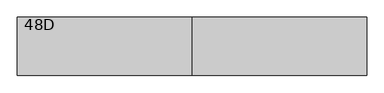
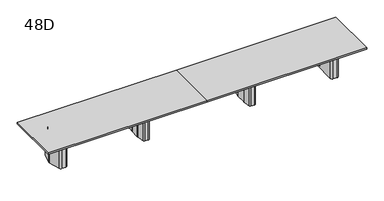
"""IFC4 building model written with IfcOpenShell, lengths in millimetres: furniture geometry, Coalesse_AM_Table_Conference_ETable2_Rectangular_24ft_FourBase : 48D."""

from ifc_helpers import new_model, si_unit, frame, origin, place, context, project, spatial, polyline, circle_curve, outline, extrude, source, transform, mapped, element, save
from ifc_brep_helpers import plane_surface, cylinder_surface, revolved_surface, advanced_brep


def furniture_48d_2db85514(model_context):
    return source(origin(), model_context, "Body", "SolidModel", [
        advanced_brep(
        [(1254.91875, 206.375, 3.175), (1229.51875, 231.775, 3.175), (1208.88125, 231.775, 3.175), (1183.48125, 206.375, 3.175), (1183.48125, -206.375, 3.175), (1208.88125, -231.775, 3.175), (1229.51875, -231.775, 3.175), (1254.91875, -206.375, 3.175), (1158.08125, 206.375, 0.0), (1208.88125, 257.175, 0.0), (1229.51875, 257.175, 0.0), (1280.31875, 206.375, 0.0), (1280.31875, -206.375, 0.0), (1229.51875, -257.175, 0.0), (1208.88125, -257.175, 0.0), (1158.08125, -206.375, 0.0), (1158.08125, -206.375, 3.175), (1158.08125, 206.375, 3.175), (1208.88125, -257.175, 3.175), (1229.51875, -257.175, 3.175), (1280.31875, -206.375, 3.175), (1280.31875, 206.375, 3.175), (1229.51875, 257.175, 3.175), (1208.88125, 257.175, 3.175), (1126.5784026, 106.2976848, 698.5), (1126.33125, 102.7629613, 698.5), (1126.33125, -102.7629613, 698.5), (1126.5784026, -106.2976848, 698.5), (1151.4011625, -282.9347235, 698.5), (1176.5540098, -304.8, 698.5), (1261.8459902, -304.8, 698.5), (1286.9988375, -282.9347235, 698.5), (1311.8215974, -106.2976848, 698.5), (1312.06875, -102.7629613, 698.5), (1312.06875, 102.7629613, 698.5), (1311.8215974, 106.2976848, 698.5), (1286.9988375, 282.9347235, 698.5), (1261.8459902, 304.8, 698.5), (1176.5540098, 304.8, 698.5), (1151.4011625, 282.9347235, 698.5), (1229.51875, 231.775, 698.5), (1254.91875, 206.375, 698.5), (1254.91875, -206.375, 698.5), (1229.51875, -231.775, 698.5), (1208.88125, -231.775, 698.5), (1183.48125, -206.375, 698.5), (1183.48125, 206.375, 698.5), (1208.88125, 231.775, 698.5), (1126.5784026, 106.2976848, 3.175), (1151.4011625, 282.9347235, 3.175), (1176.5540098, 304.8, 3.175), (1261.8459902, 304.8, 3.175), (1286.9988375, 282.9347235, 3.175), (1311.8215974, 106.2976848, 3.175), (1312.06875, 102.7629613, 3.175), (1312.06875, -102.7629613, 3.175), (1311.8215974, -106.2976848, 3.175), (1286.9988375, -282.9347235, 3.175), (1261.8459902, -304.8, 3.175), (1176.5540098, -304.8, 3.175), (1151.4011625, -282.9347235, 3.175), (1126.5784026, -106.2976848, 3.175), (1126.33125, -102.7629613, 3.175), (1126.33125, 102.7629613, 3.175)],
        [
            (0, 1, circle_curve(frame((1229.51875, 206.375, 3.175), z_axis=(0.0, 0.0, 1.0), x_axis=(1.0, 0.0, 0.0)), 25.4)),
            (1, 2),
            (2, 3, circle_curve(frame((1208.88125, 206.375, 3.175), z_axis=(0.0, 0.0, 1.0), x_axis=(1.0, 0.0, 0.0)), 25.4)),
            (3, 4),
            (4, 5, circle_curve(frame((1208.88125, -206.375, 3.175), z_axis=(0.0, 0.0, 1.0), x_axis=(1.0, 0.0, 0.0)), 25.4)),
            (5, 6),
            (6, 7, circle_curve(frame((1229.51875, -206.375, 3.175), z_axis=(0.0, 0.0, 1.0), x_axis=(1.0, 0.0, 0.0)), 25.4)),
            (7, 0),
            (8, 9, circle_curve(frame((1208.88125, 206.375, 0.0), z_axis=(0.0, 0.0, -1.0), x_axis=(1.0, 0.0, 0.0)), 50.8)),
            (9, 10),
            (10, 11, circle_curve(frame((1229.51875, 206.375, 0.0), z_axis=(0.0, 0.0, -1.0), x_axis=(1.0, 0.0, 0.0)), 50.8)),
            (11, 12),
            (12, 13, circle_curve(frame((1229.51875, -206.375, 0.0), z_axis=(0.0, 0.0, -1.0), x_axis=(1.0, 0.0, 0.0)), 50.8)),
            (13, 14),
            (14, 15, circle_curve(frame((1208.88125, -206.375, 0.0), z_axis=(0.0, 0.0, -1.0), x_axis=(1.0, 0.0, 0.0)), 50.8)),
            (15, 8),
            (15, 16),
            (16, 17),
            (17, 8),
            (14, 18),
            (18, 16, circle_curve(frame((1208.88125, -206.375, 3.175), z_axis=(0.0, 0.0, -1.0), x_axis=(1.0, 0.0, 0.0)), 50.8)),
            (13, 19),
            (19, 18),
            (12, 20),
            (20, 19, circle_curve(frame((1229.51875, -206.375, 3.175), z_axis=(0.0, 0.0, -1.0), x_axis=(1.0, 0.0, 0.0)), 50.8)),
            (11, 21),
            (21, 20),
            (10, 22),
            (22, 21, circle_curve(frame((1229.51875, 206.375, 3.175), z_axis=(0.0, 0.0, -1.0), x_axis=(1.0, 0.0, 0.0)), 50.8)),
            (9, 23),
            (23, 22),
            (17, 23, circle_curve(frame((1208.88125, 206.375, 3.175), z_axis=(0.0, 0.0, -1.0), x_axis=(1.0, 0.0, 0.0)), 50.8)),
            (24, 25, circle_curve(frame((1151.73125, 102.7629613, 698.5), z_axis=(0.0, 0.0, 1.0), x_axis=(1.0, 0.0, 0.0)), 25.4)),
            (25, 26),
            (26, 27, circle_curve(frame((1151.73125, -102.7629613, 698.5), z_axis=(0.0, 0.0, 1.0), x_axis=(1.0, 0.0, 0.0)), 25.4)),
            (27, 28),
            (28, 29, circle_curve(frame((1176.5540098, -279.4, 698.5), z_axis=(0.0, 0.0, 1.0), x_axis=(1.0, 0.0, 0.0)), 25.4)),
            (29, 30),
            (30, 31, circle_curve(frame((1261.8459902, -279.4, 698.5), z_axis=(0.0, 0.0, 1.0), x_axis=(1.0, 0.0, 0.0)), 25.4)),
            (31, 32),
            (32, 33, circle_curve(frame((1286.66875, -102.7629613, 698.5), z_axis=(0.0, 0.0, 1.0), x_axis=(1.0, 0.0, 0.0)), 25.4)),
            (33, 34),
            (34, 35, circle_curve(frame((1286.66875, 102.7629613, 698.5), z_axis=(0.0, 0.0, 1.0), x_axis=(1.0, 0.0, 0.0)), 25.4)),
            (35, 36),
            (36, 37, circle_curve(frame((1261.8459902, 279.4, 698.5), z_axis=(0.0, 0.0, 1.0), x_axis=(1.0, 0.0, 0.0)), 25.4)),
            (37, 38),
            (38, 39, circle_curve(frame((1176.5540098, 279.4, 698.5), z_axis=(0.0, 0.0, 1.0), x_axis=(1.0, 0.0, 0.0)), 25.4)),
            (39, 24),
            (40, 41, circle_curve(frame((1229.51875, 206.375, 698.5), z_axis=(0.0, 0.0, -1.0), x_axis=(1.0, 0.0, 0.0)), 25.4)),
            (41, 42),
            (42, 43, circle_curve(frame((1229.51875, -206.375, 698.5), z_axis=(0.0, 0.0, -1.0), x_axis=(1.0, 0.0, 0.0)), 25.4)),
            (43, 44),
            (44, 45, circle_curve(frame((1208.88125, -206.375, 698.5), z_axis=(0.0, 0.0, -1.0), x_axis=(1.0, 0.0, 0.0)), 25.4)),
            (45, 46),
            (46, 47, circle_curve(frame((1208.88125, 206.375, 698.5), z_axis=(0.0, 0.0, -1.0), x_axis=(1.0, 0.0, 0.0)), 25.4)),
            (47, 40),
            (48, 49),
            (49, 50, circle_curve(frame((1176.5540098, 279.4, 3.175), z_axis=(0.0, 0.0, -1.0), x_axis=(1.0, 0.0, 0.0)), 25.4)),
            (50, 51),
            (51, 52, circle_curve(frame((1261.8459902, 279.4, 3.175), z_axis=(0.0, 0.0, -1.0), x_axis=(1.0, 0.0, 0.0)), 25.4)),
            (52, 53),
            (53, 54, circle_curve(frame((1286.66875, 102.7629613, 3.175), z_axis=(0.0, 0.0, -1.0), x_axis=(1.0, 0.0, 0.0)), 25.4)),
            (54, 55),
            (55, 56, circle_curve(frame((1286.66875, -102.7629613, 3.175), z_axis=(0.0, 0.0, -1.0), x_axis=(1.0, 0.0, 0.0)), 25.4)),
            (56, 57),
            (57, 58, circle_curve(frame((1261.8459902, -279.4, 3.175), z_axis=(0.0, 0.0, -1.0), x_axis=(1.0, 0.0, 0.0)), 25.4)),
            (58, 59),
            (59, 60, circle_curve(frame((1176.5540098, -279.4, 3.175), z_axis=(0.0, 0.0, -1.0), x_axis=(1.0, 0.0, 0.0)), 25.4)),
            (60, 61),
            (61, 62, circle_curve(frame((1151.73125, -102.7629613, 3.175), z_axis=(0.0, 0.0, -1.0), x_axis=(1.0, 0.0, 0.0)), 25.4)),
            (62, 63),
            (63, 48, circle_curve(frame((1151.73125, 102.7629613, 3.175), z_axis=(0.0, 0.0, -1.0), x_axis=(1.0, 0.0, 0.0)), 25.4)),
            (24, 48),
            (63, 25),
            (62, 26),
            (61, 27),
            (60, 28),
            (59, 29),
            (58, 30),
            (57, 31),
            (56, 32),
            (55, 33),
            (54, 34),
            (53, 35),
            (52, 36),
            (51, 37),
            (50, 38),
            (49, 39),
            (40, 1),
            (0, 41),
            (7, 42),
            (6, 43),
            (5, 44),
            (4, 45),
            (3, 46),
            (2, 47),
        ],
        [
            plane_surface(frame((1158.08125, -206.375, 3.175), z_axis=(0.0, 0.0, 1.0), x_axis=(0.0, -1.0, 0.0))),
            plane_surface(frame((1158.08125, -206.375, 0.0), z_axis=(0.0, 0.0, -1.0), x_axis=(0.0, 1.0, 0.0))),
            plane_surface(frame((1158.08125, 206.375, 3.175), z_axis=(-1.0, 0.0, 0.0), x_axis=(0.0, 0.0, -1.0))),
            cylinder_surface(frame((1208.88125, -206.375, 0.0), z_axis=(0.0, 0.0, 1.0), x_axis=(1.0, 0.0, 0.0)), 50.8),
            plane_surface(frame((1208.88125, -257.175, 3.175), z_axis=(0.0, -1.0, 0.0), x_axis=(0.0, 0.0, -1.0))),
            cylinder_surface(frame((1229.51875, -206.375, 0.0), z_axis=(0.0, 0.0, 1.0), x_axis=(1.0, 0.0, 0.0)), 50.8),
            plane_surface(frame((1280.31875, -206.375, 3.175), z_axis=(1.0, 0.0, 0.0), x_axis=(0.0, 0.0, -1.0))),
            cylinder_surface(frame((1229.51875, 206.375, 0.0), z_axis=(0.0, 0.0, 1.0), x_axis=(1.0, 0.0, 0.0)), 50.8),
            plane_surface(frame((1229.51875, 257.175, 3.175), z_axis=(0.0, 1.0, 0.0), x_axis=(0.0, 0.0, -1.0))),
            cylinder_surface(frame((1208.88125, 206.375, 0.0), z_axis=(0.0, 0.0, 1.0), x_axis=(1.0, 0.0, 0.0)), 50.8),
            plane_surface(frame((1177.13125, 102.7629613, 698.5), z_axis=(0.0, 0.0, 1.0), x_axis=(0.0, 1.0, 0.0))),
            plane_surface(frame((1177.13125, 102.7629613, 3.175), z_axis=(0.0, 0.0, -1.0), x_axis=(0.0, -1.0, 0.0))),
            cylinder_surface(frame((1151.73125, 102.7629613, 3.175), z_axis=(0.0, 0.0, 1.0), x_axis=(1.0, 0.0, 0.0)), 25.4),
            plane_surface(frame((1126.33125, 102.7629613, 698.5), z_axis=(-1.0, 0.0, 0.0), x_axis=(0.0, 0.0, -1.0))),
            cylinder_surface(frame((1151.73125, -102.7629613, 3.175), z_axis=(0.0, 0.0, 1.0), x_axis=(1.0, 0.0, 0.0)), 25.4),
            plane_surface(frame((1126.5784026, -106.2976848, 698.5), z_axis=(-0.9902695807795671, -0.13916234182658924, 0.0), x_axis=(0.0, 0.0, -1.0))),
            cylinder_surface(frame((1176.5540098, -279.4, 3.175), z_axis=(0.0, 0.0, 1.0), x_axis=(1.0, 0.0, 0.0)), 25.4),
            plane_surface(frame((1176.5540098, -304.8, 698.5), z_axis=(0.0, -1.0, 0.0), x_axis=(0.0, 0.0, -1.0))),
            cylinder_surface(frame((1261.8459902, -279.4, 3.175), z_axis=(0.0, 0.0, 1.0), x_axis=(1.0, 0.0, 0.0)), 25.4),
            plane_surface(frame((1286.9988375, -282.9347235, 698.5), z_axis=(0.9902695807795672, -0.13916234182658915, 0.0), x_axis=(0.0, 0.0, -1.0))),
            cylinder_surface(frame((1286.66875, -102.7629613, 3.175), z_axis=(0.0, 0.0, 1.0), x_axis=(1.0, 0.0, 0.0)), 25.4),
            plane_surface(frame((1312.06875, -102.7629613, 698.5), z_axis=(1.0, 0.0, 0.0), x_axis=(0.0, 0.0, -1.0))),
            cylinder_surface(frame((1286.66875, 102.7629613, 3.175), z_axis=(0.0, 0.0, 1.0), x_axis=(1.0, 0.0, 0.0)), 25.4),
            plane_surface(frame((1311.8215974, 106.2976848, 698.5), z_axis=(0.9902695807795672, 0.1391623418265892, 0.0), x_axis=(0.0, 0.0, -1.0))),
            cylinder_surface(frame((1261.8459902, 279.4, 3.175), z_axis=(0.0, 0.0, 1.0), x_axis=(1.0, 0.0, 0.0)), 25.4),
            plane_surface(frame((1261.8459902, 304.8, 698.5), z_axis=(0.0, 1.0, 0.0), x_axis=(0.0, 0.0, -1.0))),
            cylinder_surface(frame((1176.5540098, 279.4, 3.175), z_axis=(0.0, 0.0, 1.0), x_axis=(1.0, 0.0, 0.0)), 25.4),
            plane_surface(frame((1151.4011625, 282.9347235, 698.5), z_axis=(-0.9902695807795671, 0.13916234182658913, 0.0), x_axis=(0.0, 0.0, -1.0))),
            revolved_surface(polyline([(1254.91875, 206.375, 3.175), (1254.91875, 206.375, 698.5)]), (1229.51875, 206.375, 0.0), (0.0, 0.0, -1.0)),
            plane_surface(frame((1254.91875, 206.375, 698.5), z_axis=(-1.0, 0.0, 0.0), x_axis=(0.0, 0.0, -1.0))),
            revolved_surface(polyline([(1254.91875, -206.375, 3.175), (1254.91875, -206.375, 698.5)]), (1229.51875, -206.375, 0.0), (0.0, 0.0, -1.0)),
            plane_surface(frame((1229.51875, -231.775, 698.5), z_axis=(0.0, 1.0, 0.0), x_axis=(0.0, 0.0, -1.0))),
            revolved_surface(polyline([(1234.28125, -206.375, 3.175), (1234.28125, -206.375, 698.5)]), (1208.88125, -206.375, 0.0), (0.0, 0.0, -1.0)),
            plane_surface(frame((1183.48125, -206.375, 698.5), z_axis=(1.0, 0.0, 0.0), x_axis=(0.0, 0.0, -1.0))),
            revolved_surface(polyline([(1234.28125, 206.375, 3.175), (1234.28125, 206.375, 698.5)]), (1208.88125, 206.375, 0.0), (0.0, 0.0, -1.0)),
            plane_surface(frame((1208.88125, 231.775, 698.5), z_axis=(0.0, -1.0, 0.0), x_axis=(0.0, 0.0, -1.0))),
        ],
        [
            (0, [[1, 2, 3, 4, 5, 6, 7, 8]]),
            (1, [[9, 10, 11, 12, 13, 14, 15, 16]]),
            (2, [[-16, 17, 18, 19]]),
            (3, [[-15, 20, 21, -17]]),
            (4, [[-14, 22, 23, -20]]),
            (5, [[-13, 24, 25, -22]]),
            (6, [[-12, 26, 27, -24]]),
            (7, [[-11, 28, 29, -26]]),
            (8, [[-10, 30, 31, -28]]),
            (9, [[-9, -19, 32, -30]]),
            (10, [[33, 34, 35, 36, 37, 38, 39, 40, 41, 42, 43, 44, 45, 46, 47, 48], [49, 50, 51, 52, 53, 54, 55, 56]]),
            (11, [[57, 58, 59, 60, 61, 62, 63, 64, 65, 66, 67, 68, 69, 70, 71, 72], [-18, -21, -23, -25, -27, -29, -31, -32]]),
            (12, [[-33, 73, -72, 74]]),
            (13, [[-34, -74, -71, 75]]),
            (14, [[-35, -75, -70, 76]]),
            (15, [[-36, -76, -69, 77]]),
            (16, [[-37, -77, -68, 78]]),
            (17, [[-38, -78, -67, 79]]),
            (18, [[-39, -79, -66, 80]]),
            (19, [[-40, -80, -65, 81]]),
            (20, [[-41, -81, -64, 82]]),
            (21, [[-42, -82, -63, 83]]),
            (22, [[-43, -83, -62, 84]]),
            (23, [[-44, -84, -61, 85]]),
            (24, [[-45, -85, -60, 86]]),
            (25, [[-46, -86, -59, 87]]),
            (26, [[-47, -87, -58, 88]]),
            (27, [[-48, -88, -57, -73]]),
            (28, [[-49, 89, -1, 90]]),
            (29, [[-50, -90, -8, 91]]),
            (30, [[-51, -91, -7, 92]]),
            (31, [[-52, -92, -6, 93]]),
            (32, [[-53, -93, -5, 94]]),
            (33, [[-54, -94, -4, 95]]),
            (34, [[-55, -95, -3, 96]]),
            (35, [[-56, -96, -2, -89]]),
        ],
    ),
        advanced_brep(
        [(-1183.48125, 206.375, 3.175), (-1208.88125, 231.775, 3.175), (-1229.51875, 231.775, 3.175), (-1254.91875, 206.375, 3.175), (-1254.91875, -206.375, 3.175), (-1229.51875, -231.775, 3.175), (-1208.88125, -231.775, 3.175), (-1183.48125, -206.375, 3.175), (-1280.31875, 206.375, 0.0), (-1229.51875, 257.175, 0.0), (-1208.88125, 257.175, 0.0), (-1158.08125, 206.375, 0.0), (-1158.08125, -206.375, 0.0), (-1208.88125, -257.175, 0.0), (-1229.51875, -257.175, 0.0), (-1280.31875, -206.375, 0.0), (-1280.31875, -206.375, 3.175), (-1280.31875, 206.375, 3.175), (-1229.51875, -257.175, 3.175), (-1208.88125, -257.175, 3.175), (-1158.08125, -206.375, 3.175), (-1158.08125, 206.375, 3.175), (-1208.88125, 257.175, 3.175), (-1229.51875, 257.175, 3.175), (-1311.8215974, 106.2976848, 698.5), (-1312.06875, 102.7629613, 698.5), (-1312.06875, -102.7629613, 698.5), (-1311.8215974, -106.2976848, 698.5), (-1286.9988375, -282.9347235, 698.5), (-1261.8459902, -304.8, 698.5), (-1176.5540098, -304.8, 698.5), (-1151.4011625, -282.9347235, 698.5), (-1126.5784026, -106.2976848, 698.5), (-1126.33125, -102.7629613, 698.5), (-1126.33125, 102.7629613, 698.5), (-1126.5784026, 106.2976848, 698.5), (-1151.4011625, 282.9347235, 698.5), (-1176.5540098, 304.8, 698.5), (-1261.8459902, 304.8, 698.5), (-1286.9988375, 282.9347235, 698.5), (-1208.88125, 231.775, 698.5), (-1183.48125, 206.375, 698.5), (-1183.48125, -206.375, 698.5), (-1208.88125, -231.775, 698.5), (-1229.51875, -231.775, 698.5), (-1254.91875, -206.375, 698.5), (-1254.91875, 206.375, 698.5), (-1229.51875, 231.775, 698.5), (-1311.8215974, 106.2976848, 3.175), (-1286.9988375, 282.9347235, 3.175), (-1261.8459902, 304.8, 3.175), (-1176.5540098, 304.8, 3.175), (-1151.4011625, 282.9347235, 3.175), (-1126.5784026, 106.2976848, 3.175), (-1126.33125, 102.7629613, 3.175), (-1126.33125, -102.7629613, 3.175), (-1126.5784026, -106.2976848, 3.175), (-1151.4011625, -282.9347235, 3.175), (-1176.5540098, -304.8, 3.175), (-1261.8459902, -304.8, 3.175), (-1286.9988375, -282.9347235, 3.175), (-1311.8215974, -106.2976848, 3.175), (-1312.06875, -102.7629613, 3.175), (-1312.06875, 102.7629613, 3.175)],
        [
            (0, 1, circle_curve(frame((-1208.88125, 206.375, 3.175), z_axis=(0.0, 0.0, 1.0), x_axis=(1.0, 0.0, 0.0)), 25.4)),
            (1, 2),
            (2, 3, circle_curve(frame((-1229.51875, 206.375, 3.175), z_axis=(0.0, 0.0, 1.0), x_axis=(1.0, 0.0, 0.0)), 25.4)),
            (3, 4),
            (4, 5, circle_curve(frame((-1229.51875, -206.375, 3.175), z_axis=(0.0, 0.0, 1.0), x_axis=(1.0, 0.0, 0.0)), 25.4)),
            (5, 6),
            (6, 7, circle_curve(frame((-1208.88125, -206.375, 3.175), z_axis=(0.0, 0.0, 1.0), x_axis=(1.0, 0.0, 0.0)), 25.4)),
            (7, 0),
            (8, 9, circle_curve(frame((-1229.51875, 206.375, 0.0), z_axis=(0.0, 0.0, -1.0), x_axis=(1.0, 0.0, 0.0)), 50.8)),
            (9, 10),
            (10, 11, circle_curve(frame((-1208.88125, 206.375, 0.0), z_axis=(0.0, 0.0, -1.0), x_axis=(1.0, 0.0, 0.0)), 50.8)),
            (11, 12),
            (12, 13, circle_curve(frame((-1208.88125, -206.375, 0.0), z_axis=(0.0, 0.0, -1.0), x_axis=(1.0, 0.0, 0.0)), 50.8)),
            (13, 14),
            (14, 15, circle_curve(frame((-1229.51875, -206.375, 0.0), z_axis=(0.0, 0.0, -1.0), x_axis=(1.0, 0.0, 0.0)), 50.8)),
            (15, 8),
            (15, 16),
            (16, 17),
            (17, 8),
            (14, 18),
            (18, 16, circle_curve(frame((-1229.51875, -206.375, 3.175), z_axis=(0.0, 0.0, -1.0), x_axis=(1.0, 0.0, 0.0)), 50.8)),
            (13, 19),
            (19, 18),
            (12, 20),
            (20, 19, circle_curve(frame((-1208.88125, -206.375, 3.175), z_axis=(0.0, 0.0, -1.0), x_axis=(1.0, 0.0, 0.0)), 50.8)),
            (11, 21),
            (21, 20),
            (10, 22),
            (22, 21, circle_curve(frame((-1208.88125, 206.375, 3.175), z_axis=(0.0, 0.0, -1.0), x_axis=(1.0, 0.0, 0.0)), 50.8)),
            (9, 23),
            (23, 22),
            (17, 23, circle_curve(frame((-1229.51875, 206.375, 3.175), z_axis=(0.0, 0.0, -1.0), x_axis=(1.0, 0.0, 0.0)), 50.8)),
            (24, 25, circle_curve(frame((-1286.66875, 102.7629613, 698.5), z_axis=(0.0, 0.0, 1.0), x_axis=(1.0, 0.0, 0.0)), 25.4)),
            (25, 26),
            (26, 27, circle_curve(frame((-1286.66875, -102.7629613, 698.5), z_axis=(0.0, 0.0, 1.0), x_axis=(1.0, 0.0, 0.0)), 25.4)),
            (27, 28),
            (28, 29, circle_curve(frame((-1261.8459902, -279.4, 698.5), z_axis=(0.0, 0.0, 1.0), x_axis=(1.0, 0.0, 0.0)), 25.4)),
            (29, 30),
            (30, 31, circle_curve(frame((-1176.5540098, -279.4, 698.5), z_axis=(0.0, 0.0, 1.0), x_axis=(1.0, 0.0, 0.0)), 25.4)),
            (31, 32),
            (32, 33, circle_curve(frame((-1151.73125, -102.7629613, 698.5), z_axis=(0.0, 0.0, 1.0), x_axis=(1.0, 0.0, 0.0)), 25.4)),
            (33, 34),
            (34, 35, circle_curve(frame((-1151.73125, 102.7629613, 698.5), z_axis=(0.0, 0.0, 1.0), x_axis=(1.0, 0.0, 0.0)), 25.4)),
            (35, 36),
            (36, 37, circle_curve(frame((-1176.5540098, 279.4, 698.5), z_axis=(0.0, 0.0, 1.0), x_axis=(1.0, 0.0, 0.0)), 25.4)),
            (37, 38),
            (38, 39, circle_curve(frame((-1261.8459902, 279.4, 698.5), z_axis=(0.0, 0.0, 1.0), x_axis=(1.0, 0.0, 0.0)), 25.4)),
            (39, 24),
            (40, 41, circle_curve(frame((-1208.88125, 206.375, 698.5), z_axis=(0.0, 0.0, -1.0), x_axis=(1.0, 0.0, 0.0)), 25.4)),
            (41, 42),
            (42, 43, circle_curve(frame((-1208.88125, -206.375, 698.5), z_axis=(0.0, 0.0, -1.0), x_axis=(1.0, 0.0, 0.0)), 25.4)),
            (43, 44),
            (44, 45, circle_curve(frame((-1229.51875, -206.375, 698.5), z_axis=(0.0, 0.0, -1.0), x_axis=(1.0, 0.0, 0.0)), 25.4)),
            (45, 46),
            (46, 47, circle_curve(frame((-1229.51875, 206.375, 698.5), z_axis=(0.0, 0.0, -1.0), x_axis=(1.0, 0.0, 0.0)), 25.4)),
            (47, 40),
            (48, 49),
            (49, 50, circle_curve(frame((-1261.8459902, 279.4, 3.175), z_axis=(0.0, 0.0, -1.0), x_axis=(1.0, 0.0, 0.0)), 25.4)),
            (50, 51),
            (51, 52, circle_curve(frame((-1176.5540098, 279.4, 3.175), z_axis=(0.0, 0.0, -1.0), x_axis=(1.0, 0.0, 0.0)), 25.4)),
            (52, 53),
            (53, 54, circle_curve(frame((-1151.73125, 102.7629613, 3.175), z_axis=(0.0, 0.0, -1.0), x_axis=(1.0, 0.0, 0.0)), 25.4)),
            (54, 55),
            (55, 56, circle_curve(frame((-1151.73125, -102.7629613, 3.175), z_axis=(0.0, 0.0, -1.0), x_axis=(1.0, 0.0, 0.0)), 25.4)),
            (56, 57),
            (57, 58, circle_curve(frame((-1176.5540098, -279.4, 3.175), z_axis=(0.0, 0.0, -1.0), x_axis=(1.0, 0.0, 0.0)), 25.4)),
            (58, 59),
            (59, 60, circle_curve(frame((-1261.8459902, -279.4, 3.175), z_axis=(0.0, 0.0, -1.0), x_axis=(1.0, 0.0, 0.0)), 25.4)),
            (60, 61),
            (61, 62, circle_curve(frame((-1286.66875, -102.7629613, 3.175), z_axis=(0.0, 0.0, -1.0), x_axis=(1.0, 0.0, 0.0)), 25.4)),
            (62, 63),
            (63, 48, circle_curve(frame((-1286.66875, 102.7629613, 3.175), z_axis=(0.0, 0.0, -1.0), x_axis=(1.0, 0.0, 0.0)), 25.4)),
            (24, 48),
            (63, 25),
            (62, 26),
            (61, 27),
            (60, 28),
            (59, 29),
            (58, 30),
            (57, 31),
            (56, 32),
            (55, 33),
            (54, 34),
            (53, 35),
            (52, 36),
            (51, 37),
            (50, 38),
            (49, 39),
            (40, 1),
            (0, 41),
            (7, 42),
            (6, 43),
            (5, 44),
            (4, 45),
            (3, 46),
            (2, 47),
        ],
        [
            plane_surface(frame((-1280.31875, -206.375, 3.175), z_axis=(0.0, 0.0, 1.0), x_axis=(0.0, -1.0, 0.0))),
            plane_surface(frame((-1280.31875, -206.375, 0.0), z_axis=(0.0, 0.0, -1.0), x_axis=(0.0, 1.0, 0.0))),
            plane_surface(frame((-1280.31875, 206.375, 3.175), z_axis=(-1.0, 0.0, 0.0), x_axis=(0.0, 0.0, -1.0))),
            cylinder_surface(frame((-1229.51875, -206.375, 0.0), z_axis=(0.0, 0.0, 1.0), x_axis=(1.0, 0.0, 0.0)), 50.8),
            plane_surface(frame((-1229.51875, -257.175, 3.175), z_axis=(0.0, -1.0, 0.0), x_axis=(0.0, 0.0, -1.0))),
            cylinder_surface(frame((-1208.88125, -206.375, 0.0), z_axis=(0.0, 0.0, 1.0), x_axis=(1.0, 0.0, 0.0)), 50.8),
            plane_surface(frame((-1158.08125, -206.375, 3.175), z_axis=(1.0, 0.0, 0.0), x_axis=(0.0, 0.0, -1.0))),
            cylinder_surface(frame((-1208.88125, 206.375, 0.0), z_axis=(0.0, 0.0, 1.0), x_axis=(1.0, 0.0, 0.0)), 50.8),
            plane_surface(frame((-1208.88125, 257.175, 3.175), z_axis=(0.0, 1.0, 0.0), x_axis=(0.0, 0.0, -1.0))),
            cylinder_surface(frame((-1229.51875, 206.375, 0.0), z_axis=(0.0, 0.0, 1.0), x_axis=(1.0, 0.0, 0.0)), 50.8),
            plane_surface(frame((-1261.26875, 102.7629613, 698.5), z_axis=(0.0, 0.0, 1.0), x_axis=(0.0, 1.0, 0.0))),
            plane_surface(frame((-1261.26875, 102.7629613, 3.175), z_axis=(0.0, 0.0, -1.0), x_axis=(0.0, -1.0, 0.0))),
            cylinder_surface(frame((-1286.66875, 102.7629613, 3.175), z_axis=(0.0, 0.0, 1.0), x_axis=(1.0, 0.0, 0.0)), 25.4),
            plane_surface(frame((-1312.06875, 102.7629613, 698.5), z_axis=(-1.0, 0.0, 0.0), x_axis=(0.0, 0.0, -1.0))),
            cylinder_surface(frame((-1286.66875, -102.7629613, 3.175), z_axis=(0.0, 0.0, 1.0), x_axis=(1.0, 0.0, 0.0)), 25.4),
            plane_surface(frame((-1311.8215974, -106.2976848, 698.5), z_axis=(-0.9902695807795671, -0.13916234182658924, 0.0), x_axis=(0.0, 0.0, -1.0))),
            cylinder_surface(frame((-1261.8459902, -279.4, 3.175), z_axis=(0.0, 0.0, 1.0), x_axis=(1.0, 0.0, 0.0)), 25.4),
            plane_surface(frame((-1261.8459902, -304.8, 698.5), z_axis=(0.0, -1.0, 0.0), x_axis=(0.0, 0.0, -1.0))),
            cylinder_surface(frame((-1176.5540098, -279.4, 3.175), z_axis=(0.0, 0.0, 1.0), x_axis=(1.0, 0.0, 0.0)), 25.4),
            plane_surface(frame((-1151.4011625, -282.9347235, 698.5), z_axis=(0.9902695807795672, -0.13916234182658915, 0.0), x_axis=(0.0, 0.0, -1.0))),
            cylinder_surface(frame((-1151.73125, -102.7629613, 3.175), z_axis=(0.0, 0.0, 1.0), x_axis=(1.0, 0.0, 0.0)), 25.4),
            plane_surface(frame((-1126.33125, -102.7629613, 698.5), z_axis=(1.0, 0.0, 0.0), x_axis=(0.0, 0.0, -1.0))),
            cylinder_surface(frame((-1151.73125, 102.7629613, 3.175), z_axis=(0.0, 0.0, 1.0), x_axis=(1.0, 0.0, 0.0)), 25.4),
            plane_surface(frame((-1126.5784026, 106.2976848, 698.5), z_axis=(0.9902695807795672, 0.1391623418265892, 0.0), x_axis=(0.0, 0.0, -1.0))),
            cylinder_surface(frame((-1176.5540098, 279.4, 3.175), z_axis=(0.0, 0.0, 1.0), x_axis=(1.0, 0.0, 0.0)), 25.4),
            plane_surface(frame((-1176.5540098, 304.8, 698.5), z_axis=(0.0, 1.0, 0.0), x_axis=(0.0, 0.0, -1.0))),
            cylinder_surface(frame((-1261.8459902, 279.4, 3.175), z_axis=(0.0, 0.0, 1.0), x_axis=(1.0, 0.0, 0.0)), 25.4),
            plane_surface(frame((-1286.9988375, 282.9347235, 698.5), z_axis=(-0.9902695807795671, 0.13916234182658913, 0.0), x_axis=(0.0, 0.0, -1.0))),
            revolved_surface(polyline([(-1183.4812499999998, 206.375, 3.175), (-1183.4812499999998, 206.375, 698.5)]), (-1208.88125, 206.375, 0.0), (0.0, 0.0, -1.0)),
            plane_surface(frame((-1183.48125, 206.375, 698.5), z_axis=(-1.0, 0.0, 0.0), x_axis=(0.0, 0.0, -1.0))),
            revolved_surface(polyline([(-1183.4812499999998, -206.375, 3.175), (-1183.4812499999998, -206.375, 698.5)]), (-1208.88125, -206.375, 0.0), (0.0, 0.0, -1.0)),
            plane_surface(frame((-1208.88125, -231.775, 698.5), z_axis=(0.0, 1.0, 0.0), x_axis=(0.0, 0.0, -1.0))),
            revolved_surface(polyline([(-1204.1187499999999, -206.375, 3.175), (-1204.1187499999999, -206.375, 698.5)]), (-1229.51875, -206.375, 0.0), (0.0, 0.0, -1.0)),
            plane_surface(frame((-1254.91875, -206.375, 698.5), z_axis=(1.0, 0.0, 0.0), x_axis=(0.0, 0.0, -1.0))),
            revolved_surface(polyline([(-1204.1187499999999, 206.375, 3.175), (-1204.1187499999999, 206.375, 698.5)]), (-1229.51875, 206.375, 0.0), (0.0, 0.0, -1.0)),
            plane_surface(frame((-1229.51875, 231.775, 698.5), z_axis=(0.0, -1.0, 0.0), x_axis=(0.0, 0.0, -1.0))),
        ],
        [
            (0, [[1, 2, 3, 4, 5, 6, 7, 8]]),
            (1, [[9, 10, 11, 12, 13, 14, 15, 16]]),
            (2, [[-16, 17, 18, 19]]),
            (3, [[-15, 20, 21, -17]]),
            (4, [[-14, 22, 23, -20]]),
            (5, [[-13, 24, 25, -22]]),
            (6, [[-12, 26, 27, -24]]),
            (7, [[-11, 28, 29, -26]]),
            (8, [[-10, 30, 31, -28]]),
            (9, [[-9, -19, 32, -30]]),
            (10, [[33, 34, 35, 36, 37, 38, 39, 40, 41, 42, 43, 44, 45, 46, 47, 48], [49, 50, 51, 52, 53, 54, 55, 56]]),
            (11, [[57, 58, 59, 60, 61, 62, 63, 64, 65, 66, 67, 68, 69, 70, 71, 72], [-18, -21, -23, -25, -27, -29, -31, -32]]),
            (12, [[-33, 73, -72, 74]]),
            (13, [[-34, -74, -71, 75]]),
            (14, [[-35, -75, -70, 76]]),
            (15, [[-36, -76, -69, 77]]),
            (16, [[-37, -77, -68, 78]]),
            (17, [[-38, -78, -67, 79]]),
            (18, [[-39, -79, -66, 80]]),
            (19, [[-40, -80, -65, 81]]),
            (20, [[-41, -81, -64, 82]]),
            (21, [[-42, -82, -63, 83]]),
            (22, [[-43, -83, -62, 84]]),
            (23, [[-44, -84, -61, 85]]),
            (24, [[-45, -85, -60, 86]]),
            (25, [[-46, -86, -59, 87]]),
            (26, [[-47, -87, -58, 88]]),
            (27, [[-48, -88, -57, -73]]),
            (28, [[-49, 89, -1, 90]]),
            (29, [[-50, -90, -8, 91]]),
            (30, [[-51, -91, -7, 92]]),
            (31, [[-52, -92, -6, 93]]),
            (32, [[-53, -93, -5, 94]]),
            (33, [[-54, -94, -4, 95]]),
            (34, [[-55, -95, -3, 96]]),
            (35, [[-56, -96, -2, -89]]),
        ],
    ),
        advanced_brep(
        [(3199.024548, 274.2093613, 698.5), (3159.1579246, 304.8, 698.5), (3070.225, 304.8, 698.5), (3028.95, 263.525, 698.5), (3028.95, -263.525, 698.5), (3070.225, -304.8, 698.5), (3159.1579246, -304.8, 698.5), (3199.024548, -274.2093613, 698.5), (3269.6503901, -10.6333708, 698.5), (3269.6503901, 10.6333708, 698.5), (3067.05, -206.375, 698.5), (3067.05, 206.375, 698.5), (3092.45, 231.775, 698.5), (3151.4608422, 231.775, 698.5), (3175.995338, 212.9490792, 698.5), (3214.6875, 68.54974, 698.5), (3214.6875, -68.54974, 698.5), (3175.995338, -212.9490792, 698.5), (3151.4608422, -231.775, 698.5), (3092.45, -231.775, 698.5), (3199.024548, 274.2093613, 3.175), (3269.6503901, 10.6333708, 3.175), (3269.6503901, -10.6333708, 3.175), (3199.024548, -274.2093613, 3.175), (3159.1579246, -304.8, 3.175), (3070.225, -304.8, 3.175), (3028.95, -263.525, 3.175), (3028.95, 263.525, 3.175), (3070.225, 304.8, 3.175), (3159.1579246, 304.8, 3.175), (3188.2625859, 216.2361187, 3.175), (3151.4608422, 244.475, 3.175), (3092.45, 244.475, 3.175), (3054.35, 206.375, 3.175), (3054.35, -206.375, 3.175), (3092.45, -244.475, 3.175), (3151.4608422, -244.475, 3.175), (3188.2625859, -216.2361187, 3.175), (3227.3875, -70.2217466, 3.175), (3227.3875, 70.2217466, 3.175), (3092.45, -231.775, 3.175), (3067.05, -206.375, 3.175), (3151.4608422, -231.775, 3.175), (3175.995338, -212.9490792, 3.175), (3214.6875, -68.54974, 3.175), (3214.6875, 68.54974, 3.175), (3175.995338, 212.9490792, 3.175), (3151.4608422, 231.775, 3.175), (3092.45, 231.775, 3.175), (3067.05, 206.375, 3.175), (3188.2625859, 216.2361187, 0.0), (3227.3875, 70.2217466, 0.0), (3227.3875, -70.2217466, 0.0), (3188.2625859, -216.2361187, 0.0), (3151.4608422, -244.475, 0.0), (3092.45, -244.475, 0.0), (3054.35, -206.375, 0.0), (3054.35, 206.375, 0.0), (3092.45, 244.475, 0.0), (3151.4608422, 244.475, 0.0)],
        [
            (0, 1, circle_curve(frame((3159.1579246, 263.5270004, 698.5), z_axis=(0.0, 0.0, 1.0), x_axis=(-1.0, 0.0, 0.0)), 41.2729996)),
            (1, 2),
            (2, 3, circle_curve(frame((3070.225, 263.525, 698.5), z_axis=(0.0, 0.0, 1.0), x_axis=(-1.0, 0.0, 0.0)), 41.275)),
            (3, 4),
            (4, 5, circle_curve(frame((3070.225, -263.525, 698.5), z_axis=(0.0, 0.0, 1.0), x_axis=(-1.0, 0.0, 0.0)), 41.275)),
            (5, 6),
            (6, 7, circle_curve(frame((3159.1579246, -263.5270004, 698.5), z_axis=(0.0, 0.0, 1.0), x_axis=(-1.0, 0.0, 0.0)), 41.2729996)),
            (7, 8),
            (8, 9, circle_curve(frame((3229.9665979, 0.0, 698.5), z_axis=(0.0, 0.0, 1.0), x_axis=(-1.0, 0.0, 0.0)), 41.0837187)),
            (9, 0),
            (10, 11),
            (11, 12, circle_curve(frame((3092.45, 206.375, 698.5), z_axis=(0.0, 0.0, -1.0), x_axis=(-1.0, 0.0, 0.0)), 25.4)),
            (12, 13),
            (13, 14, circle_curve(frame((3151.4608422, 206.375, 698.5), z_axis=(0.0, 0.0, -1.0), x_axis=(-1.0, 0.0, 0.0)), 25.4)),
            (14, 15),
            (15, 16),
            (16, 17),
            (17, 18, circle_curve(frame((3151.4608422, -206.375, 698.5), z_axis=(0.0, 0.0, -1.0), x_axis=(-1.0, 0.0, 0.0)), 25.4)),
            (18, 19),
            (19, 10, circle_curve(frame((3092.45, -206.375, 698.5), z_axis=(0.0, 0.0, -1.0), x_axis=(-1.0, 0.0, 0.0)), 25.4)),
            (20, 21),
            (21, 22, circle_curve(frame((3229.9665979, 0.0, 3.175), z_axis=(0.0, 0.0, -1.0), x_axis=(-1.0, 0.0, 0.0)), 41.0837187)),
            (22, 23),
            (23, 24, circle_curve(frame((3159.1579246, -263.5270004, 3.175), z_axis=(0.0, 0.0, -1.0), x_axis=(-1.0, 0.0, 0.0)), 41.2729996)),
            (24, 25),
            (25, 26, circle_curve(frame((3070.225, -263.525, 3.175), z_axis=(0.0, 0.0, -1.0), x_axis=(-1.0, 0.0, 0.0)), 41.275)),
            (26, 27),
            (27, 28, circle_curve(frame((3070.225, 263.525, 3.175), z_axis=(0.0, 0.0, -1.0), x_axis=(-1.0, 0.0, 0.0)), 41.275)),
            (28, 29),
            (29, 20, circle_curve(frame((3159.1579246, 263.5270004, 3.175), z_axis=(0.0, 0.0, -1.0), x_axis=(-1.0, 0.0, 0.0)), 41.2729996)),
            (30, 31, circle_curve(frame((3151.4608422, 206.375, 3.175), z_axis=(0.0, 0.0, 1.0), x_axis=(-1.0, 0.0, 0.0)), 38.1)),
            (31, 32),
            (32, 33, circle_curve(frame((3092.45, 206.375, 3.175), z_axis=(0.0, 0.0, 1.0), x_axis=(-1.0, 0.0, 0.0)), 38.1)),
            (33, 34),
            (34, 35, circle_curve(frame((3092.45, -206.375, 3.175), z_axis=(0.0, 0.0, 1.0), x_axis=(-1.0, 0.0, 0.0)), 38.1)),
            (35, 36),
            (36, 37, circle_curve(frame((3151.4608422, -206.375, 3.175), z_axis=(0.0, 0.0, 1.0), x_axis=(-1.0, 0.0, 0.0)), 38.1)),
            (37, 38),
            (38, 39),
            (39, 30),
            (9, 21),
            (20, 0),
            (8, 22),
            (7, 23),
            (6, 24),
            (5, 25),
            (4, 26),
            (3, 27),
            (2, 28),
            (1, 29),
            (19, 40),
            (40, 41, circle_curve(frame((3092.45, -206.375, 3.175), z_axis=(0.0, 0.0, -1.0), x_axis=(-1.0, 0.0, 0.0)), 25.4)),
            (41, 10),
            (18, 42),
            (42, 40),
            (17, 43),
            (43, 42, circle_curve(frame((3151.4608422, -206.375, 3.175), z_axis=(0.0, 0.0, -1.0), x_axis=(-1.0, 0.0, 0.0)), 25.4)),
            (16, 44),
            (44, 43),
            (15, 45),
            (45, 44),
            (14, 46),
            (46, 45),
            (13, 47),
            (47, 46, circle_curve(frame((3151.4608422, 206.375, 3.175), z_axis=(0.0, 0.0, -1.0), x_axis=(-1.0, 0.0, 0.0)), 25.4)),
            (12, 48),
            (48, 47),
            (11, 49),
            (49, 48, circle_curve(frame((3092.45, 206.375, 3.175), z_axis=(0.0, 0.0, -1.0), x_axis=(-1.0, 0.0, 0.0)), 25.4)),
            (41, 49),
            (50, 51),
            (51, 52),
            (52, 53),
            (53, 54, circle_curve(frame((3151.4608422, -206.375, 0.0), z_axis=(0.0, 0.0, -1.0), x_axis=(-1.0, 0.0, 0.0)), 38.1)),
            (54, 55),
            (55, 56, circle_curve(frame((3092.45, -206.375, 0.0), z_axis=(0.0, 0.0, -1.0), x_axis=(-1.0, 0.0, 0.0)), 38.1)),
            (56, 57),
            (57, 58, circle_curve(frame((3092.45, 206.375, 0.0), z_axis=(0.0, 0.0, -1.0), x_axis=(-1.0, 0.0, 0.0)), 38.1)),
            (58, 59),
            (59, 50, circle_curve(frame((3151.4608422, 206.375, 0.0), z_axis=(0.0, 0.0, -1.0), x_axis=(-1.0, 0.0, 0.0)), 38.1)),
            (50, 30),
            (39, 51),
            (38, 52),
            (37, 53),
            (36, 54),
            (35, 55),
            (34, 56),
            (33, 57),
            (32, 58),
            (31, 59),
        ],
        [
            plane_surface(frame((3269.6374275, 10.6817473, 698.5), z_axis=(0.0, 0.0, 1.0000000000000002), x_axis=(0.25882201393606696, -0.9659250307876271, 0.0))),
            plane_surface(frame((3269.6374275, 10.6817473, 3.175), z_axis=(0.0, 0.0, -1.0000000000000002), x_axis=(-0.25882201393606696, 0.9659250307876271, 0.0))),
            plane_surface(frame((3199.024548, 274.2093613, 698.5), z_axis=(0.9659250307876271, 0.25882201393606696, 0.0), x_axis=(0.0, 0.0, -1.0))),
            cylinder_surface(frame((3229.9665979, 0.0, 3.175), z_axis=(0.0, 0.0, 1.0), x_axis=(-1.0, 0.0, 0.0)), 41.0837187),
            plane_surface(frame((3269.6503901, -10.6333708, 698.5), z_axis=(0.9659250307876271, -0.2588220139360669, 0.0), x_axis=(0.0, 0.0, -1.0))),
            cylinder_surface(frame((3159.1579246, -263.5270004, 3.175), z_axis=(0.0, 0.0, 1.0), x_axis=(-1.0, 0.0, 0.0)), 41.2729996),
            plane_surface(frame((3159.1579246, -304.8, 698.5), z_axis=(0.0, -1.0, 0.0), x_axis=(0.0, 0.0, -1.0))),
            cylinder_surface(frame((3070.225, -263.525, 3.175), z_axis=(0.0, 0.0, 1.0), x_axis=(-1.0, 0.0, 0.0)), 41.275),
            plane_surface(frame((3028.95, -263.525, 698.5), z_axis=(-1.0, 0.0, 0.0), x_axis=(0.0, 0.0, -1.0))),
            cylinder_surface(frame((3070.225, 263.525, 3.175), z_axis=(0.0, 0.0, 1.0), x_axis=(-1.0, 0.0, 0.0)), 41.275),
            plane_surface(frame((3070.225, 304.8, 698.5), z_axis=(0.0, 1.0, 0.0), x_axis=(0.0, 0.0, -1.0))),
            cylinder_surface(frame((3159.1579246, 263.5270004, 3.175), z_axis=(0.0, 0.0, 1.0), x_axis=(-1.0, 0.0, 0.0)), 41.2729996),
            revolved_surface(polyline([(3067.0499999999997, -206.375, 3.175), (3067.0499999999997, -206.375, 698.5)]), (3092.45, -206.375, 0.0), (0.0, 0.0, -1.0)),
            plane_surface(frame((3092.45, -231.775, 698.5), z_axis=(0.0, 1.0, 0.0), x_axis=(0.0, 0.0, -1.0))),
            revolved_surface(polyline([(3126.0608422, -206.375, 3.175), (3126.0608422, -206.375, 698.5)]), (3151.4608422, -206.375, 0.0), (0.0, 0.0, -1.0)),
            plane_surface(frame((3175.995338, -212.9490792, 698.5), z_axis=(-0.9659250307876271, 0.2588220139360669, 0.0), x_axis=(0.0, 0.0, -1.0))),
            plane_surface(frame((3214.6875, -68.54974, 698.5), z_axis=(-1.0, 0.0, 0.0), x_axis=(0.0, 0.0, -1.0))),
            plane_surface(frame((3214.6875, 68.54974, 698.5), z_axis=(-0.9659250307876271, -0.25882201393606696, 0.0), x_axis=(0.0, 0.0, -1.0))),
            revolved_surface(polyline([(3126.0608422, 206.375, 3.175), (3126.0608422, 206.375, 698.5)]), (3151.4608422, 206.375, 0.0), (0.0, 0.0, -1.0)),
            plane_surface(frame((3151.4608422, 231.775, 698.5), z_axis=(0.0, -1.0, 0.0), x_axis=(0.0, 0.0, -1.0))),
            revolved_surface(polyline([(3067.0499999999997, 206.375, 3.175), (3067.0499999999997, 206.375, 698.5)]), (3092.45, 206.375, 0.0), (0.0, 0.0, -1.0)),
            plane_surface(frame((3067.05, 206.375, 698.5), z_axis=(1.0, 0.0, 0.0), x_axis=(0.0, 0.0, -1.0))),
            plane_surface(frame((3226.9547479, 71.8367796, 3.175), z_axis=(0.0, 0.0, 1.0), x_axis=(0.25882201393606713, -0.965925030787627, 0.0))),
            plane_surface(frame((3226.9547479, 71.8367796, 0.0), z_axis=(0.0, 0.0, -1.0), x_axis=(-0.25882201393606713, 0.965925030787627, 0.0))),
            plane_surface(frame((3188.2625859, 216.2361187, 3.175), z_axis=(0.965925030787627, 0.25882201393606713, 0.0), x_axis=(0.0, 0.0, -1.0))),
            plane_surface(frame((3227.3875, 70.2217466, 3.175), z_axis=(1.0, 0.0, 0.0), x_axis=(0.0, 0.0, -1.0))),
            plane_surface(frame((3227.3875, -70.2217466, 3.175), z_axis=(0.9659250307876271, -0.2588220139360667, 0.0), x_axis=(0.0, 0.0, -1.0))),
            cylinder_surface(frame((3151.4608422, -206.375, 0.0), z_axis=(0.0, 0.0, 1.0), x_axis=(-1.0, 0.0, 0.0)), 38.1),
            plane_surface(frame((3151.4608422, -244.475, 3.175), z_axis=(0.0, -1.0, 0.0), x_axis=(0.0, 0.0, -1.0))),
            cylinder_surface(frame((3092.45, -206.375, 0.0), z_axis=(0.0, 0.0, 1.0), x_axis=(-1.0, 0.0, 0.0)), 38.1),
            plane_surface(frame((3054.35, -206.375, 3.175), z_axis=(-1.0, 0.0, 0.0), x_axis=(0.0, 0.0, -1.0))),
            cylinder_surface(frame((3092.45, 206.375, 0.0), z_axis=(0.0, 0.0, 1.0), x_axis=(-1.0, 0.0, 0.0)), 38.1),
            plane_surface(frame((3092.45, 244.475, 3.175), z_axis=(0.0, 1.0, 0.0), x_axis=(0.0, 0.0, -1.0))),
            cylinder_surface(frame((3151.4608422, 206.375, 0.0), z_axis=(0.0, 0.0, 1.0), x_axis=(-1.0, 0.0, 0.0)), 38.1),
        ],
        [
            (0, [[1, 2, 3, 4, 5, 6, 7, 8, 9, 10], [11, 12, 13, 14, 15, 16, 17, 18, 19, 20]]),
            (1, [[21, 22, 23, 24, 25, 26, 27, 28, 29, 30], [31, 32, 33, 34, 35, 36, 37, 38, 39, 40]]),
            (2, [[41, -21, 42, -10]]),
            (3, [[43, -22, -41, -9]]),
            (4, [[44, -23, -43, -8]]),
            (5, [[45, -24, -44, -7]]),
            (6, [[46, -25, -45, -6]]),
            (7, [[47, -26, -46, -5]]),
            (8, [[48, -27, -47, -4]]),
            (9, [[49, -28, -48, -3]]),
            (10, [[50, -29, -49, -2]]),
            (11, [[-42, -30, -50, -1]]),
            (12, [[51, 52, 53, -20]]),
            (13, [[54, 55, -51, -19]]),
            (14, [[56, 57, -54, -18]]),
            (15, [[58, 59, -56, -17]]),
            (16, [[60, 61, -58, -16]]),
            (17, [[62, 63, -60, -15]]),
            (18, [[64, 65, -62, -14]]),
            (19, [[66, 67, -64, -13]]),
            (20, [[68, 69, -66, -12]]),
            (21, [[-53, 70, -68, -11]]),
            (22, [[-55, -57, -59, -61, -63, -65, -67, -69, -70, -52]]),
            (23, [[71, 72, 73, 74, 75, 76, 77, 78, 79, 80]]),
            (24, [[81, -40, 82, -71]]),
            (25, [[-82, -39, 83, -72]]),
            (26, [[-83, -38, 84, -73]]),
            (27, [[-84, -37, 85, -74]]),
            (28, [[-85, -36, 86, -75]]),
            (29, [[-86, -35, 87, -76]]),
            (30, [[-87, -34, 88, -77]]),
            (31, [[-88, -33, 89, -78]]),
            (32, [[-89, -32, 90, -79]]),
            (33, [[-90, -31, -81, -80]]),
        ],
    ),
        advanced_brep(
        [(-3210.137048, 274.2093613, 698.5), (-3280.7628901, 10.6333708, 698.5), (-3280.7628901, -10.6333708, 698.5), (-3210.137048, -274.2093613, 698.5), (-3170.2704246, -304.8, 698.5), (-3081.3375, -304.8, 698.5), (-3040.0625, -263.525, 698.5), (-3040.0625, 263.525, 698.5), (-3081.3375, 304.8, 698.5), (-3170.2704246, 304.8, 698.5), (-3078.1625, -206.375, 698.5), (-3103.5625, -231.775, 698.5), (-3162.5733422, -231.775, 698.5), (-3187.107838, -212.9490792, 698.5), (-3225.8, -68.54974, 698.5), (-3225.8, 68.54974, 698.5), (-3187.107838, 212.9490792, 698.5), (-3162.5733422, 231.775, 698.5), (-3103.5625, 231.775, 698.5), (-3078.1625, 206.375, 698.5), (-3210.137048, 274.2093613, 3.175), (-3170.2704246, 304.8, 3.175), (-3081.3375, 304.8, 3.175), (-3040.0625, 263.525, 3.175), (-3040.0625, -263.525, 3.175), (-3081.3375, -304.8, 3.175), (-3170.2704246, -304.8, 3.175), (-3210.137048, -274.2093613, 3.175), (-3280.7628901, -10.6333708, 3.175), (-3280.7628901, 10.6333708, 3.175), (-3199.3750859, 216.2361187, 3.175), (-3238.5, 70.2217466, 3.175), (-3238.5, -70.2217466, 3.175), (-3199.3750859, -216.2361187, 3.175), (-3162.5733422, -244.475, 3.175), (-3103.5625, -244.475, 3.175), (-3065.4625, -206.375, 3.175), (-3065.4625, 206.375, 3.175), (-3103.5625, 244.475, 3.175), (-3162.5733422, 244.475, 3.175), (-3078.1625, -206.375, 3.175), (-3103.5625, -231.775, 3.175), (-3162.5733422, -231.775, 3.175), (-3187.107838, -212.9490792, 3.175), (-3225.8, -68.54974, 3.175), (-3225.8, 68.54974, 3.175), (-3187.107838, 212.9490792, 3.175), (-3162.5733422, 231.775, 3.175), (-3103.5625, 231.775, 3.175), (-3078.1625, 206.375, 3.175), (-3199.3750859, 216.2361187, 0.0), (-3162.5733422, 244.475, 0.0), (-3103.5625, 244.475, 0.0), (-3065.4625, 206.375, 0.0), (-3065.4625, -206.375, 0.0), (-3103.5625, -244.475, 0.0), (-3162.5733422, -244.475, 0.0), (-3199.3750859, -216.2361187, 0.0), (-3238.5, -70.2217466, 0.0), (-3238.5, 70.2217466, 0.0)],
        [
            (0, 1),
            (1, 2, circle_curve(frame((-3241.0790979, 0.0, 698.5), z_axis=(0.0, 0.0, 1.0), x_axis=(1.0, 0.0, 0.0)), 41.0837187)),
            (2, 3),
            (3, 4, circle_curve(frame((-3170.2704246, -263.5270004, 698.5), z_axis=(0.0, 0.0, 1.0), x_axis=(1.0, 0.0, 0.0)), 41.2729996)),
            (4, 5),
            (5, 6, circle_curve(frame((-3081.3375, -263.525, 698.5), z_axis=(0.0, 0.0, 1.0), x_axis=(1.0, 0.0, 0.0)), 41.275)),
            (6, 7),
            (7, 8, circle_curve(frame((-3081.3375, 263.525, 698.5), z_axis=(0.0, 0.0, 1.0), x_axis=(1.0, 0.0, 0.0)), 41.275)),
            (8, 9),
            (9, 0, circle_curve(frame((-3170.2704246, 263.5270004, 698.5), z_axis=(0.0, 0.0, 1.0), x_axis=(1.0, 0.0, 0.0)), 41.2729996)),
            (10, 11, circle_curve(frame((-3103.5625, -206.375, 698.5), z_axis=(0.0, 0.0, -1.0), x_axis=(1.0, 0.0, 0.0)), 25.4)),
            (11, 12),
            (12, 13, circle_curve(frame((-3162.5733422, -206.375, 698.5), z_axis=(0.0, 0.0, -1.0), x_axis=(1.0, 0.0, 0.0)), 25.4)),
            (13, 14),
            (14, 15),
            (15, 16),
            (16, 17, circle_curve(frame((-3162.5733422, 206.375, 698.5), z_axis=(0.0, 0.0, -1.0), x_axis=(1.0, 0.0, 0.0)), 25.4)),
            (17, 18),
            (18, 19, circle_curve(frame((-3103.5625, 206.375, 698.5), z_axis=(0.0, 0.0, -1.0), x_axis=(1.0, 0.0, 0.0)), 25.4)),
            (19, 10),
            (20, 21, circle_curve(frame((-3170.2704246, 263.5270004, 3.175), z_axis=(0.0, 0.0, -1.0), x_axis=(1.0, 0.0, 0.0)), 41.2729996)),
            (21, 22),
            (22, 23, circle_curve(frame((-3081.3375, 263.525, 3.175), z_axis=(0.0, 0.0, -1.0), x_axis=(1.0, 0.0, 0.0)), 41.275)),
            (23, 24),
            (24, 25, circle_curve(frame((-3081.3375, -263.525, 3.175), z_axis=(0.0, 0.0, -1.0), x_axis=(1.0, 0.0, 0.0)), 41.275)),
            (25, 26),
            (26, 27, circle_curve(frame((-3170.2704246, -263.5270004, 3.175), z_axis=(0.0, 0.0, -1.0), x_axis=(1.0, 0.0, 0.0)), 41.2729996)),
            (27, 28),
            (28, 29, circle_curve(frame((-3241.0790979, 0.0, 3.175), z_axis=(0.0, 0.0, -1.0), x_axis=(1.0, 0.0, 0.0)), 41.0837187)),
            (29, 20),
            (30, 31),
            (31, 32),
            (32, 33),
            (33, 34, circle_curve(frame((-3162.5733422, -206.375, 3.175), z_axis=(0.0, 0.0, 1.0), x_axis=(1.0, 0.0, 0.0)), 38.1)),
            (34, 35),
            (35, 36, circle_curve(frame((-3103.5625, -206.375, 3.175), z_axis=(0.0, 0.0, 1.0), x_axis=(1.0, 0.0, 0.0)), 38.1)),
            (36, 37),
            (37, 38, circle_curve(frame((-3103.5625, 206.375, 3.175), z_axis=(0.0, 0.0, 1.0), x_axis=(1.0, 0.0, 0.0)), 38.1)),
            (38, 39),
            (39, 30, circle_curve(frame((-3162.5733422, 206.375, 3.175), z_axis=(0.0, 0.0, 1.0), x_axis=(1.0, 0.0, 0.0)), 38.1)),
            (0, 20),
            (29, 1),
            (28, 2),
            (27, 3),
            (26, 4),
            (25, 5),
            (24, 6),
            (23, 7),
            (22, 8),
            (21, 9),
            (10, 40),
            (40, 41, circle_curve(frame((-3103.5625, -206.375, 3.175), z_axis=(0.0, 0.0, -1.0), x_axis=(1.0, 0.0, 0.0)), 25.4)),
            (41, 11),
            (41, 42),
            (42, 12),
            (42, 43, circle_curve(frame((-3162.5733422, -206.375, 3.175), z_axis=(0.0, 0.0, -1.0), x_axis=(1.0, 0.0, 0.0)), 25.4)),
            (43, 13),
            (43, 44),
            (44, 14),
            (44, 45),
            (45, 15),
            (45, 46),
            (46, 16),
            (46, 47, circle_curve(frame((-3162.5733422, 206.375, 3.175), z_axis=(0.0, 0.0, -1.0), x_axis=(1.0, 0.0, 0.0)), 25.4)),
            (47, 17),
            (47, 48),
            (48, 18),
            (48, 49, circle_curve(frame((-3103.5625, 206.375, 3.175), z_axis=(0.0, 0.0, -1.0), x_axis=(1.0, 0.0, 0.0)), 25.4)),
            (49, 19),
            (49, 40),
            (50, 51, circle_curve(frame((-3162.5733422, 206.375, 0.0), z_axis=(0.0, 0.0, -1.0), x_axis=(1.0, 0.0, 0.0)), 38.1)),
            (51, 52),
            (52, 53, circle_curve(frame((-3103.5625, 206.375, 0.0), z_axis=(0.0, 0.0, -1.0), x_axis=(1.0, 0.0, 0.0)), 38.1)),
            (53, 54),
            (54, 55, circle_curve(frame((-3103.5625, -206.375, 0.0), z_axis=(0.0, 0.0, -1.0), x_axis=(1.0, 0.0, 0.0)), 38.1)),
            (55, 56),
            (56, 57, circle_curve(frame((-3162.5733422, -206.375, 0.0), z_axis=(0.0, 0.0, -1.0), x_axis=(1.0, 0.0, 0.0)), 38.1)),
            (57, 58),
            (58, 59),
            (59, 50),
            (59, 31),
            (30, 50),
            (58, 32),
            (57, 33),
            (56, 34),
            (55, 35),
            (54, 36),
            (53, 37),
            (52, 38),
            (51, 39),
        ],
        [
            plane_surface(frame((-3280.7499275, 10.6817473, 698.5), z_axis=(0.0, 0.0, 1.0000000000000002), x_axis=(-0.25882201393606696, -0.9659250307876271, 0.0))),
            plane_surface(frame((-3280.7499275, 10.6817473, 3.175), z_axis=(0.0, 0.0, -1.0000000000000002), x_axis=(0.25882201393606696, 0.9659250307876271, 0.0))),
            plane_surface(frame((-3210.137048, 274.2093613, 698.5), z_axis=(-0.9659250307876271, 0.25882201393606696, 0.0), x_axis=(0.0, 0.0, -1.0))),
            cylinder_surface(frame((-3241.0790979, 0.0, 3.175), z_axis=(0.0, 0.0, 1.0), x_axis=(1.0, 0.0, 0.0)), 41.0837187),
            plane_surface(frame((-3280.7628901, -10.6333708, 698.5), z_axis=(-0.9659250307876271, -0.2588220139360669, 0.0), x_axis=(0.0, 0.0, -1.0))),
            cylinder_surface(frame((-3170.2704246, -263.5270004, 3.175), z_axis=(0.0, 0.0, 1.0), x_axis=(1.0, 0.0, 0.0)), 41.2729996),
            plane_surface(frame((-3170.2704246, -304.8, 698.5), z_axis=(0.0, -1.0, 0.0), x_axis=(0.0, 0.0, -1.0))),
            cylinder_surface(frame((-3081.3375, -263.525, 3.175), z_axis=(0.0, 0.0, 1.0), x_axis=(1.0, 0.0, 0.0)), 41.275),
            plane_surface(frame((-3040.0625, -263.525, 698.5), z_axis=(1.0, 0.0, 0.0), x_axis=(0.0, 0.0, -1.0))),
            cylinder_surface(frame((-3081.3375, 263.525, 3.175), z_axis=(0.0, 0.0, 1.0), x_axis=(1.0, 0.0, 0.0)), 41.275),
            plane_surface(frame((-3081.3375, 304.8, 698.5), z_axis=(0.0, 1.0, 0.0), x_axis=(0.0, 0.0, -1.0))),
            cylinder_surface(frame((-3170.2704246, 263.5270004, 3.175), z_axis=(0.0, 0.0, 1.0), x_axis=(1.0, 0.0, 0.0)), 41.2729996),
            revolved_surface(polyline([(-3078.1625, -206.375, 3.175), (-3078.1625, -206.375, 698.5)]), (-3103.5625, -206.375, 0.0), (0.0, 0.0, -1.0)),
            plane_surface(frame((-3103.5625, -231.775, 698.5), z_axis=(0.0, 1.0, 0.0), x_axis=(0.0, 0.0, -1.0))),
            revolved_surface(polyline([(-3137.1733421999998, -206.375, 3.175), (-3137.1733421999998, -206.375, 698.5)]), (-3162.5733422, -206.375, 0.0), (0.0, 0.0, -1.0)),
            plane_surface(frame((-3187.107838, -212.9490792, 698.5), z_axis=(0.9659250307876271, 0.2588220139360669, 0.0), x_axis=(0.0, 0.0, -1.0))),
            plane_surface(frame((-3225.8, -68.54974, 698.5), z_axis=(1.0, 0.0, 0.0), x_axis=(0.0, 0.0, -1.0))),
            plane_surface(frame((-3225.8, 68.54974, 698.5), z_axis=(0.9659250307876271, -0.25882201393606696, 0.0), x_axis=(0.0, 0.0, -1.0))),
            revolved_surface(polyline([(-3137.1733421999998, 206.375, 3.175), (-3137.1733421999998, 206.375, 698.5)]), (-3162.5733422, 206.375, 0.0), (0.0, 0.0, -1.0)),
            plane_surface(frame((-3162.5733422, 231.775, 698.5), z_axis=(0.0, -1.0, 0.0), x_axis=(0.0, 0.0, -1.0))),
            revolved_surface(polyline([(-3078.1625, 206.375, 3.175), (-3078.1625, 206.375, 698.5)]), (-3103.5625, 206.375, 0.0), (0.0, 0.0, -1.0)),
            plane_surface(frame((-3078.1625, 206.375, 698.5), z_axis=(-1.0, 0.0, 0.0), x_axis=(0.0, 0.0, -1.0))),
            plane_surface(frame((-3238.0672479, 71.8367796, 3.175), z_axis=(0.0, 0.0, 1.0), x_axis=(-0.25882201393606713, -0.965925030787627, 0.0))),
            plane_surface(frame((-3238.0672479, 71.8367796, 0.0), z_axis=(0.0, 0.0, -1.0), x_axis=(0.25882201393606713, 0.965925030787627, 0.0))),
            plane_surface(frame((-3199.3750859, 216.2361187, 3.175), z_axis=(-0.965925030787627, 0.25882201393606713, 0.0), x_axis=(0.0, 0.0, -1.0))),
            plane_surface(frame((-3238.5, 70.2217466, 3.175), z_axis=(-1.0, 0.0, 0.0), x_axis=(0.0, 0.0, -1.0))),
            plane_surface(frame((-3238.5, -70.2217466, 3.175), z_axis=(-0.9659250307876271, -0.2588220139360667, 0.0), x_axis=(0.0, 0.0, -1.0))),
            cylinder_surface(frame((-3162.5733422, -206.375, 0.0), z_axis=(0.0, 0.0, 1.0), x_axis=(1.0, 0.0, 0.0)), 38.1),
            plane_surface(frame((-3162.5733422, -244.475, 3.175), z_axis=(0.0, -1.0, 0.0), x_axis=(0.0, 0.0, -1.0))),
            cylinder_surface(frame((-3103.5625, -206.375, 0.0), z_axis=(0.0, 0.0, 1.0), x_axis=(1.0, 0.0, 0.0)), 38.1),
            plane_surface(frame((-3065.4625, -206.375, 3.175), z_axis=(1.0, 0.0, 0.0), x_axis=(0.0, 0.0, -1.0))),
            cylinder_surface(frame((-3103.5625, 206.375, 0.0), z_axis=(0.0, 0.0, 1.0), x_axis=(1.0, 0.0, 0.0)), 38.1),
            plane_surface(frame((-3103.5625, 244.475, 3.175), z_axis=(0.0, 1.0, 0.0), x_axis=(0.0, 0.0, -1.0))),
            cylinder_surface(frame((-3162.5733422, 206.375, 0.0), z_axis=(0.0, 0.0, 1.0), x_axis=(1.0, 0.0, 0.0)), 38.1),
        ],
        [
            (0, [[1, 2, 3, 4, 5, 6, 7, 8, 9, 10], [11, 12, 13, 14, 15, 16, 17, 18, 19, 20]]),
            (1, [[21, 22, 23, 24, 25, 26, 27, 28, 29, 30], [31, 32, 33, 34, 35, 36, 37, 38, 39, 40]]),
            (2, [[-1, 41, -30, 42]]),
            (3, [[-2, -42, -29, 43]]),
            (4, [[-3, -43, -28, 44]]),
            (5, [[-4, -44, -27, 45]]),
            (6, [[-5, -45, -26, 46]]),
            (7, [[-6, -46, -25, 47]]),
            (8, [[-7, -47, -24, 48]]),
            (9, [[-8, -48, -23, 49]]),
            (10, [[-9, -49, -22, 50]]),
            (11, [[-10, -50, -21, -41]]),
            (12, [[-11, 51, 52, 53]]),
            (13, [[-12, -53, 54, 55]]),
            (14, [[-13, -55, 56, 57]]),
            (15, [[-14, -57, 58, 59]]),
            (16, [[-15, -59, 60, 61]]),
            (17, [[-16, -61, 62, 63]]),
            (18, [[-17, -63, 64, 65]]),
            (19, [[-18, -65, 66, 67]]),
            (20, [[-19, -67, 68, 69]]),
            (21, [[-20, -69, 70, -51]]),
            (22, [[-52, -70, -68, -66, -64, -62, -60, -58, -56, -54]]),
            (23, [[71, 72, 73, 74, 75, 76, 77, 78, 79, 80]]),
            (24, [[-80, 81, -31, 82]]),
            (25, [[-79, 83, -32, -81]]),
            (26, [[-78, 84, -33, -83]]),
            (27, [[-77, 85, -34, -84]]),
            (28, [[-76, 86, -35, -85]]),
            (29, [[-75, 87, -36, -86]]),
            (30, [[-74, 88, -37, -87]]),
            (31, [[-73, 89, -38, -88]]),
            (32, [[-72, 90, -39, -89]]),
            (33, [[-71, -82, -40, -90]]),
        ],
    ),
        extrude(outline(polyline([(3657.6, 609.6), (3657.6, -609.6), (0.0, -609.6), (0.0, 609.6), (3657.6, 609.6)])), frame((0.0, 0.0, 698.5), z_axis=(0.0, 0.0, 1.0), x_axis=(1.0, 0.0, 0.0)), (0.0, 0.0, 1.0), 38.1),
        extrude(outline(polyline([(0.0, 609.6), (0.0, -609.6), (-3657.6, -609.6), (-3657.6, 609.6), (0.0, 609.6)])), frame((0.0, 0.0, 698.5), z_axis=(0.0, 0.0, 1.0), x_axis=(1.0, 0.0, 0.0)), (0.0, 0.0, 1.0), 38.1),
        extrude(outline(polyline([(96.8375, 698.5), (103.1875, 698.5), (103.1875, 476.25), (-103.1875, 476.25), (-103.1875, 698.5), (-96.8375, 698.5), (-96.8375, 482.6), (96.8375, 482.6), (96.8375, 698.5)])), frame((-3040.0625, 0.0, 0.0), z_axis=(1.0, 0.0, 0.0), x_axis=(0.0, 1.0, 0.0)), (0.0, 0.0, 1.0), 6069.0125),
    ])


if __name__ == "__main__":
    model = new_model("IFC4")
    model_context = context("Model", 3, world=origin())
    ifc_project = project(units=[si_unit("LENGTHUNIT", "METRE", prefix="MILLI")], contexts=[model_context])
    site = spatial("IfcSite", under=ifc_project)
    building = spatial("IfcBuilding", under=site)
    placement = place(None, origin())
    furniture_48d_shape = furniture_48d_2db85514(model_context)
    element("IfcFurniture", 1, ObjectType="Coalesse_AM_Table_Conference_ETable2_Rectangular_24ft_FourBase : 48D", at=placement, inside=building, context=model_context, shape_type="MappedRepresentation", body=[
        mapped(furniture_48d_shape, transform((0.0, 0.0, 0.0), x_axis=(1.0, 0.0, 0.0), y_axis=(0.0, 1.0, 0.0), z_axis=(0.0, 0.0, 1.0))),
    ])
    save(model, "model.ifc")
